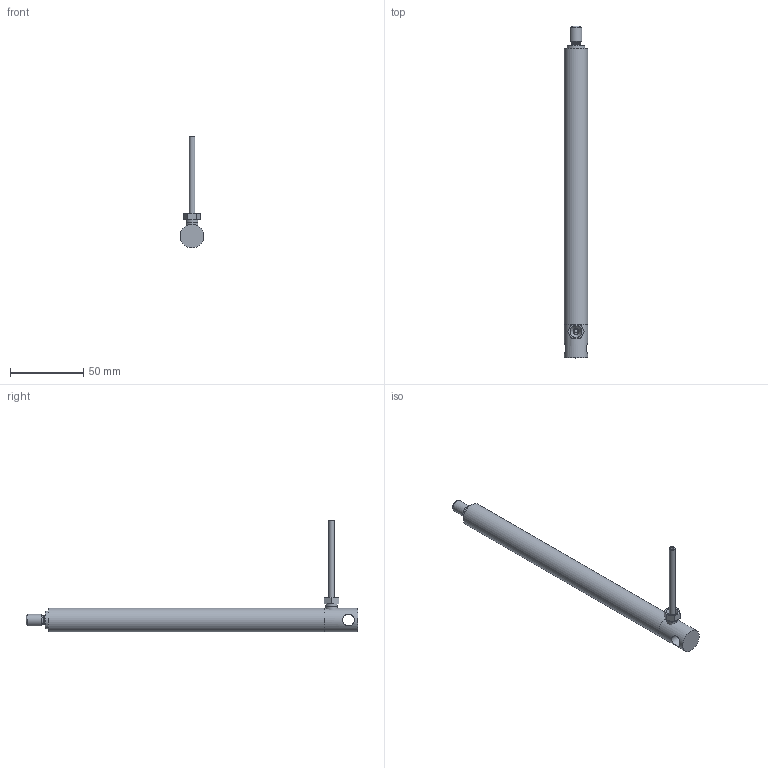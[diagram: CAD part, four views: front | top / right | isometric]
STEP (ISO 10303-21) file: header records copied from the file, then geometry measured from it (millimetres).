
FILE_DESCRIPTION(/* description */ ('Unknown'),/* implementation_level */ '2;1');
FILE_NAME(/* name */ '107.00071 Zylinder CE 1415_eingefahren',/* time_stamp */ '2018-05-18T17:04:34+02:00',/* author */ ('Unknown'),/* organization */ ('Unknown'),/* preprocessor_version */ 'ST-DEVELOPER v16.7',/* originating_system */ 'DEX',/* authorisation */ $);
FILE_SCHEMA (('AUTOMOTIVE_DESIGN {1 0 10303 214 3 1 1}'));
Length unit declared in the file: millimetre
Products named in the file (9): 107.00071; 121.00001; 142.00021; 125.00021; 115.00001_oa_0; 125.00034; 120.00021; 122.00001; 113.00002_70mm
Assembly tree (8 placements, depth 2):
  107.00071
    121.00001
    142.00021
    125.00021
    115.00001_oa_0
    125.00034
    120.00021
    122.00001
    113.00002_70mm
Bounding box: 16 x 226 x 76 mm (x, y, z)
Volume: 35035.3 mm3; surface area: 30957.8 mm2
Topology: 7 solids, 7 shells, 86 faces, 182 edges, 116 vertices
Faces by surface type: plane 29, cylinder 28, cone 23, torus 5, sphere 1
Full cylindrical faces by diameter (mm): 2.2 x1, 3 x1, 3.5 x1, 4 x1, 4.1 x1, 4.2 x1, 6 x1, 6.917 x2, 7.763 x2, 8 x5, 8.1 x3, 9 x1, 12 x2, 13.9 x2, 14 x2, 16 x2
Entity records: 2678 total; most frequent: CARTESIAN_POINT 430, DIRECTION 356, ORIENTED_EDGE 220, AXIS2_PLACEMENT_3D 169, FACE_BOUND 161, EDGE_LOOP 159, EDGE_CURVE 110, VERTEX_POINT 99
